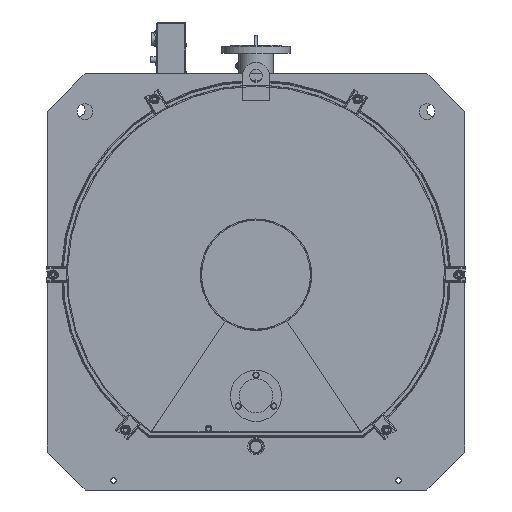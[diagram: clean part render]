
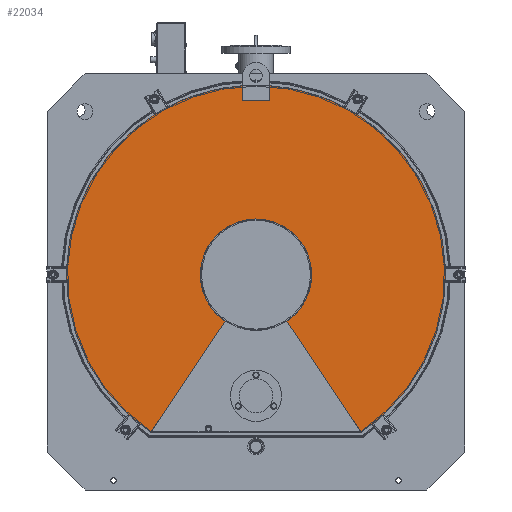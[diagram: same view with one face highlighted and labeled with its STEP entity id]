
A CAD part, left-side view. The second image highlights one B-rep face of the part: STEP entity #22034.
In plain terms, the highlighted planar face has unit normal (-1, 0, 0).
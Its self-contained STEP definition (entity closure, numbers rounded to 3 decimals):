
#22034=ADVANCED_FACE('',(#62517),#62519,.T.);
#62517=FACE_BOUND('',#62518,.T.);
#62518=EDGE_LOOP('',(#88902,#88903,#88904,#88905,#88906,#88907,#88908,#88909));
#62519=PLANE('',#62520);
#62520=AXIS2_PLACEMENT_3D('',#62521,#62522,#62523);
#62521=CARTESIAN_POINT('',(-2193.,0.,0.));
#62522=DIRECTION('',(-1.,0.,0.));
#62523=DIRECTION('',(0.,-1.,0.));
#88902=ORIENTED_EDGE('',*,*,#102768,.F.);
#88903=ORIENTED_EDGE('',*,*,#102769,.F.);
#88904=ORIENTED_EDGE('',*,*,#102770,.F.);
#88905=ORIENTED_EDGE('',*,*,#102537,.T.);
#88906=ORIENTED_EDGE('',*,*,#102714,.F.);
#88907=ORIENTED_EDGE('',*,*,#102524,.T.);
#88908=ORIENTED_EDGE('',*,*,#102713,.F.);
#88909=ORIENTED_EDGE('',*,*,#102539,.T.);
#102524=EDGE_CURVE('',#116577,#116575,#116645,.F.);
#102537=EDGE_CURVE('',#116667,#116635,#116668,.T.);
#102539=EDGE_CURVE('',#116630,#116669,#116671,.T.);
#102713=EDGE_CURVE('',#116630,#116575,#116972,.T.);
#102714=EDGE_CURVE('',#116577,#116635,#116973,.T.);
#102768=EDGE_CURVE('',#117055,#116669,#117056,.T.);
#102769=EDGE_CURVE('',#117057,#117055,#117058,.T.);
#102770=EDGE_CURVE('',#116667,#117057,#117059,.T.);
#116575=VERTEX_POINT('',#156219);
#116577=VERTEX_POINT('',#156223);
#116630=VERTEX_POINT('',#157113);
#116635=VERTEX_POINT('',#157124);
#116645=CIRCLE('',#157147,176.);
#116667=VERTEX_POINT('',#157198);
#116668=CIRCLE('',#157199,598.5);
#116669=VERTEX_POINT('',#157203);
#116671=CIRCLE('',#157208,598.5);
#116972=LINE('',#159562,#159563);
#116973=LINE('',#159565,#159566);
#117055=VERTEX_POINT('',#160539);
#117056=LINE('',#160540,#160541);
#117057=VERTEX_POINT('',#160543);
#117058=LINE('',#160544,#160545);
#117059=LINE('',#160547,#160548);
#156219=CARTESIAN_POINT('',(-2193.,-97.84,-146.299));
#156223=CARTESIAN_POINT('',(-2193.,97.84,-146.299));
#157113=CARTESIAN_POINT('',(-2193.,-332.71,-497.5));
#157124=CARTESIAN_POINT('',(-2193.,332.71,-497.5));
#157147=AXIS2_PLACEMENT_3D('',#157148,#157149,#157150);
#157148=CARTESIAN_POINT('',(-2193.,0.,0.));
#157149=DIRECTION('',(-1.,0.,0.));
#157150=DIRECTION('',(0.,-0.556,-0.831));
#157198=CARTESIAN_POINT('',(-2193.,43.,596.953));
#157199=AXIS2_PLACEMENT_3D('',#157200,#157201,#157202);
#157200=CARTESIAN_POINT('',(-2193.,0.,0.));
#157201=DIRECTION('',(-1.,0.,0.));
#157202=DIRECTION('',(0.,0.072,0.997));
#157203=CARTESIAN_POINT('',(-2193.,-43.,596.953));
#157208=AXIS2_PLACEMENT_3D('',#157209,#157210,#157211);
#157209=CARTESIAN_POINT('',(-2193.,0.,0.));
#157210=DIRECTION('',(-1.,0.,0.));
#157211=DIRECTION('',(0.,-0.556,-0.831));
#159562=CARTESIAN_POINT('',(-2193.,-332.71,-497.5));
#159563=VECTOR('',#159564,1.);
#159564=DIRECTION('',(0.,0.556,0.831));
#159565=CARTESIAN_POINT('',(-2193.,97.84,-146.299));
#159566=VECTOR('',#159567,1.);
#159567=DIRECTION('',(0.,0.556,-0.831));
#160539=CARTESIAN_POINT('',(-2193.,-43.,550.));
#160540=CARTESIAN_POINT('',(-2193.,-43.,550.));
#160541=VECTOR('',#160542,1.);
#160542=DIRECTION('',(0.,0.,1.));
#160543=CARTESIAN_POINT('',(-2193.,43.,550.));
#160544=CARTESIAN_POINT('',(-2193.,43.,550.));
#160545=VECTOR('',#160546,1.);
#160546=DIRECTION('',(0.,-1.,0.));
#160547=CARTESIAN_POINT('',(-2193.,43.,596.953));
#160548=VECTOR('',#160549,1.);
#160549=DIRECTION('',(0.,0.,-1.));
